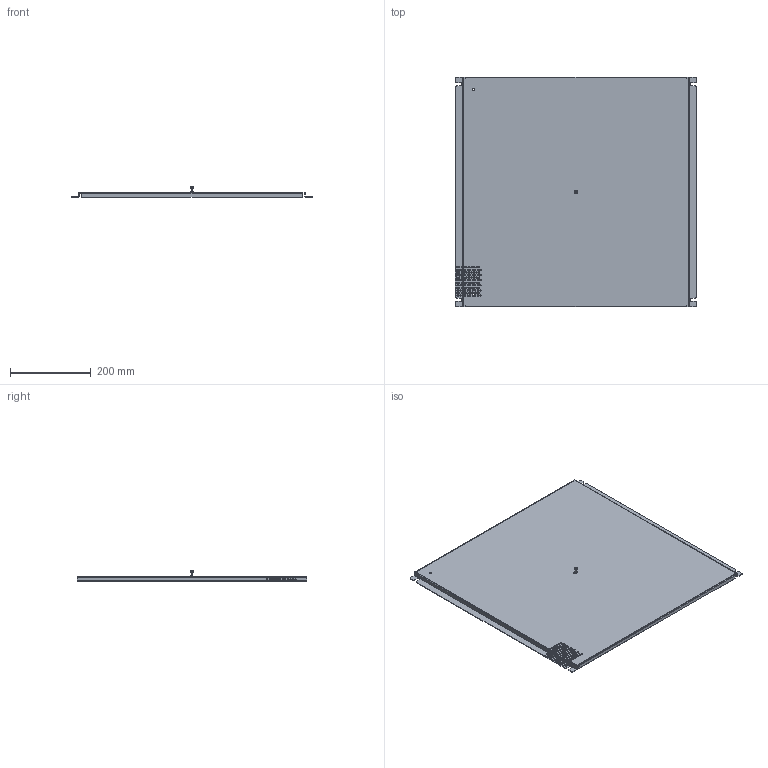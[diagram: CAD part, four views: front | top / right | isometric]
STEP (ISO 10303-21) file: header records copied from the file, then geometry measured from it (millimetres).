
FILE_DESCRIPTION(/* description */ ('Unknown'),/* implementation_level */ '2;1');
FILE_NAME(/* name */ 'CS2424PP',/* time_stamp */ '2025-09-19T11:16:10-04:00',/* author */ ('Unknown'),/* organization */ ('Unknown'),/* preprocessor_version */ 'ST-DEVELOPER v18.104',/* originating_system */ 'Solid Edge',/* authorisation */ 'Unknown');
FILE_SCHEMA (('AUTOMOTIVE_DESIGN {1 0 10303 214 3 1 1}'));
Length unit declared in the file: millimetre
Products named in the file (8): CS2424PP; COM71596-5; PNT11078; BUL88700; KIT95109; COM71595-1; SCS19495
Assembly tree (7 placements, depth 3):
  CS2424PP
    COM71596-5
      COM71596-5
      PNT11078
    BUL88700
    KIT95109
      COM71595-1
      SCS19495
Bounding box: 596.9 x 568.96 x 25.22 mm (x, y, z)
Volume: 518164.2 mm3; surface area: 721337.2 mm2
Topology: 3 solids, 3 shells, 287 faces, 991 edges, 664 vertices
Faces by surface type: cylinder 188, plane 72, bspline 24, torus 3
Full cylindrical faces by diameter (mm): 3.175 x107, 4.826 x1, 5.105 x1, 9.322 x1
Entity records: 12018 total; most frequent: CARTESIAN_POINT 3785, DIRECTION 1642, ORIENTED_EDGE 1538, EDGE_CURVE 769, AXIS2_PLACEMENT_3D 650, EDGE_LOOP 620, FACE_BOUND 620, VERTEX_POINT 555
